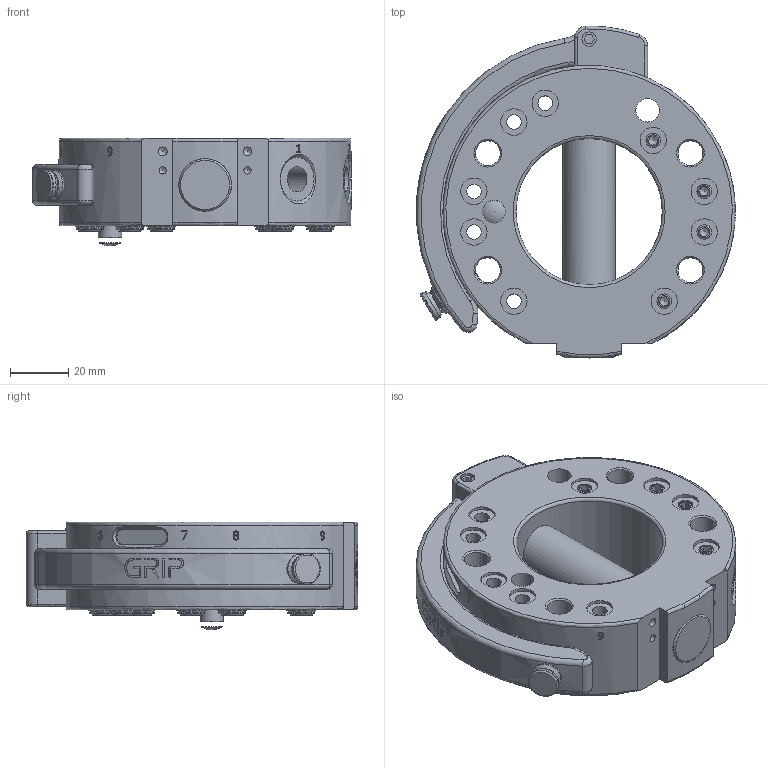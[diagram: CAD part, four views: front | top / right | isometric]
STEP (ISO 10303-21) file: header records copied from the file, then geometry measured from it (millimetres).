
FILE_DESCRIPTION(/* description */ (''),/* implementation_level */ '2;1');
FILE_NAME(/* name */ 'G-SHS100-O-K080.stp',/* time_stamp */ '2024-05-29T10:09:08+02:00',/* author */ ('ysplieth'),/* organization */ (''),/* preprocessor_version */ 'ST-DEVELOPER v20',/* originating_system */ 'Autodesk Inventor 2024',/* authorisation */ '');
FILE_SCHEMA (('AUTOMOTIVE_DESIGN { 1 0 10303 214 3 1 1 }'));
Products named in the file (1): Bauteil9
Bounding box: 108.95 x 113.49 x 36.8 mm (x, y, z)
Volume: 188174.3 mm3; surface area: 44197 mm2
Topology: 1 solids, 9 shells, 583 faces, 1454 edges, 955 vertices
Faces by surface type: plane 198, cylinder 156, bspline 107, cone 74, torus 46, sphere 2
Full cylindrical faces by diameter (mm): 0.651 x1, 2.5 x2, 3 x2, 3.3 x2, 4 x4, 4.8 x1, 4.917 x4, 5 x17, 5.2 x9, 7 x1, 7.8 x1, 8 x2, 8.5 x4, 8.7 x4, 9 x9, 9.9 x9, 10.15 x1, 10.2 x1, 10.6 x1, 15 x4, 18 x2, 50 x1
Entity records: 47829 total; most frequent: CARTESIAN_POINT 33927, ORIENTED_EDGE 2878, DIRECTION 2430, EDGE_CURVE 1439, VERTEX_POINT 955, AXIS2_PLACEMENT_3D 939, EDGE_LOOP 706, STYLED_ITEM 584
